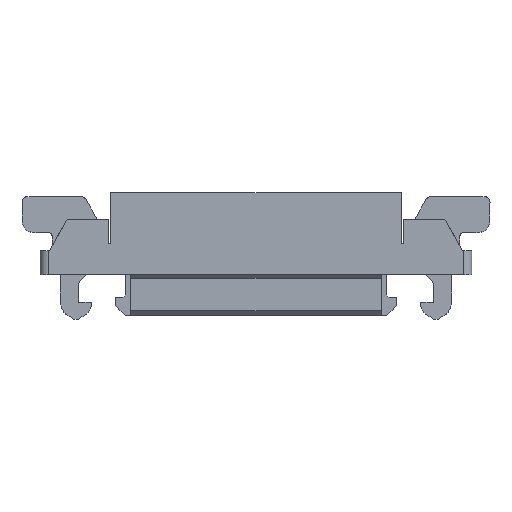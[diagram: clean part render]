
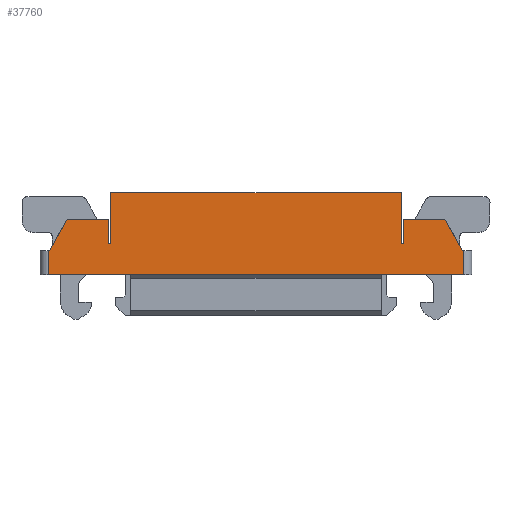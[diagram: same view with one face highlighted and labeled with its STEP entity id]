
A CAD part, top view. The second image highlights one B-rep face of the part: STEP entity #37760.
In plain terms, the highlighted planar face has unit normal (0, 0, 1).
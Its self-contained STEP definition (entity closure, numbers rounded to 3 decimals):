
#860=CARTESIAN_POINT('',(36.331,-13.48,
6.6));
#870=VERTEX_POINT('',#860);
#900=CARTESIAN_POINT('',(36.331,-16.08,6.6));
#910=DIRECTION('',(0.,-1.,0.));
#920=VECTOR('',#910,1.);
#930=LINE('',#900,#920);
#940=CARTESIAN_POINT('',(36.331,-17.68,
6.6));
#950=VERTEX_POINT('',#940);
#960=EDGE_CURVE('',#870,#950,#930,.T.);
#1380=CARTESIAN_POINT('',(31.231,-18.28,6.6))
;
#1390=VERTEX_POINT('',#1380);
#1420=CARTESIAN_POINT('',(0.,-18.28,6.6));
#1430=DIRECTION('',(1.,0.,0.));
#1440=VECTOR('',#1430,1.);
#1450=LINE('',#1420,#1440);
#1460=CARTESIAN_POINT('',(31.131,-18.28,6.6))
;
#1470=VERTEX_POINT('',#1460);
#1480=EDGE_CURVE('',#1470,#1390,#1450,.T.);
#2610=CARTESIAN_POINT('',(31.131,-20.28,6.6))
;
#2620=VERTEX_POINT('',#2610);
#2720=CARTESIAN_POINT('',(31.131,0.,6.6));
#2730=DIRECTION('',(0.,1.,0.));
#2740=VECTOR('',#2730,1.);
#2750=LINE('',#2720,#2740);
#2760=EDGE_CURVE('',#2620,#1470,#2750,.T.);
#17230=CARTESIAN_POINT('',(36.131,-15.68,
6.6));
#17240=VERTEX_POINT('',#17230);
#17270=CARTESIAN_POINT('',(0.,-15.68,6.6));
#17280=DIRECTION('',(1.,0.,0.));
#17290=VECTOR('',#17280,1.);
#17300=LINE('',#17270,#17290);
#17310=CARTESIAN_POINT('',(32.681,-15.68,
6.6));
#17320=VERTEX_POINT('',#17310);
#17330=EDGE_CURVE('',#17320,#17240,#17300,.T.);
#17770=CARTESIAN_POINT('',(36.131,-17.68,
6.6));
#17780=VERTEX_POINT('',#17770);
#17830=CARTESIAN_POINT('',(36.131,0.,6.6));
#17840=DIRECTION('',(0.,-1.,0.));
#17850=VECTOR('',#17840,1.);
#17860=LINE('',#17830,#17850);
#17870=EDGE_CURVE('',#17240,#17780,#17860,.T.);
#25370=CARTESIAN_POINT('',(41.425,0.,6.6));
#25380=DIRECTION('',(0.487,0.873,0.));
#25390=VECTOR('',#25380,1.);
#25400=LINE('',#25370,#25390);
#25410=EDGE_CURVE('',#1390,#17320,#25400,.T.);
#26970=CARTESIAN_POINT('',(60.711,-17.68,
6.6));
#26980=VERTEX_POINT('',#26970);
#27010=CARTESIAN_POINT('',(24.13,-17.68,
6.6));
#27020=DIRECTION('',(1.,0.,0.));
#27030=VECTOR('',#27020,1.);
#27040=LINE('',#27010,#27030);
#27050=CARTESIAN_POINT('',(60.511,-17.68,
6.6));
#27060=VERTEX_POINT('',#27050);
#27070=EDGE_CURVE('',#27060,#26980,#27040,.T.);
#27370=CARTESIAN_POINT('',(65.611,-18.28,6.6)
);
#27380=VERTEX_POINT('',#27370);
#27410=CARTESIAN_POINT('',(55.416,0.,6.6));
#27420=DIRECTION('',(0.487,-0.873,0.));
#27430=VECTOR('',#27420,1.);
#27440=LINE('',#27410,#27430);
#27450=CARTESIAN_POINT('',(64.161,-15.68,
6.6));
#27460=VERTEX_POINT('',#27450);
#27470=EDGE_CURVE('',#27460,#27380,#27440,.T.);
#28100=CARTESIAN_POINT('',(65.711,-18.28,6.6)
);
#28110=VERTEX_POINT('',#28100);
#28140=CARTESIAN_POINT('',(0.,-18.28,6.6));
#28150=DIRECTION('',(1.,0.,0.));
#28160=VECTOR('',#28150,1.);
#28170=LINE('',#28140,#28160);
#28180=EDGE_CURVE('',#27380,#28110,#28170,.T.);
#28520=CARTESIAN_POINT('',(60.511,-14.951,
6.6));
#28530=DIRECTION('',(0.,1.,0.));
#28540=VECTOR('',#28530,1.);
#28550=LINE('',#28520,#28540);
#28560=CARTESIAN_POINT('',(60.511,-13.48,
6.6));
#28570=VERTEX_POINT('',#28560);
#28580=EDGE_CURVE('',#27060,#28570,#28550,.T.);
#29150=CARTESIAN_POINT('',(65.711,-20.28,6.6)
);
#29160=VERTEX_POINT('',#29150);
#29190=CARTESIAN_POINT('',(65.711,0.,6.6));
#29200=DIRECTION('',(0.,-1.,0.));
#29210=VECTOR('',#29200,1.);
#29220=LINE('',#29190,#29210);
#29230=EDGE_CURVE('',#28110,#29160,#29220,.T.);
#29790=CARTESIAN_POINT('',(0.,-15.68,6.6));
#29800=DIRECTION('',(1.,0.,0.));
#29810=VECTOR('',#29800,1.);
#29820=LINE('',#29790,#29810);
#29830=CARTESIAN_POINT('',(60.711,-15.68,
6.6));
#29840=VERTEX_POINT('',#29830);
#29850=EDGE_CURVE('',#29840,#27460,#29820,.T.);
#30130=CARTESIAN_POINT('',(60.711,0.,6.6));
#30140=DIRECTION('',(0.,1.,0.));
#30150=VECTOR('',#30140,1.);
#30160=LINE('',#30130,#30150);
#30170=EDGE_CURVE('',#26980,#29840,#30160,.T.);
#37420=CARTESIAN_POINT('',(52.308,-14.951,
6.6));
#37430=DIRECTION('',(0.,0.,1.));
#37440=DIRECTION('',(1.,0.,0.));
#37450=AXIS2_PLACEMENT_3D('',#37420,#37430,#37440);
#37460=PLANE('',#37450);
#37470=CARTESIAN_POINT('',(25.003,-13.48,
6.6));
#37480=DIRECTION('',(1.,0.,0.));
#37490=VECTOR('',#37480,1.);
#37500=LINE('',#37470,#37490);
#37510=EDGE_CURVE('',#870,#28570,#37500,.T.);
#37520=ORIENTED_EDGE('',*,*,#37510,.F.);
#37530=ORIENTED_EDGE('',*,*,#28580,.T.);
#37540=ORIENTED_EDGE('',*,*,#27070,.F.);
#37550=ORIENTED_EDGE('',*,*,#30170,.F.);
#37560=ORIENTED_EDGE('',*,*,#29850,.F.);
#37570=ORIENTED_EDGE('',*,*,#27470,.F.);
#37580=ORIENTED_EDGE('',*,*,#28180,.F.);
#37590=ORIENTED_EDGE('',*,*,#29230,.F.);
#37600=CARTESIAN_POINT('',(19.05,-20.28,6.6));
#37610=DIRECTION('',(1.,0.,0.));
#37620=VECTOR('',#37610,1.);
#37630=LINE('',#37600,#37620);
#37640=EDGE_CURVE('',#2620,#29160,#37630,.T.);
#37650=ORIENTED_EDGE('',*,*,#37640,.T.);
#37660=ORIENTED_EDGE('',*,*,#2760,.F.);
#37670=ORIENTED_EDGE('',*,*,#1480,.F.);
#37680=ORIENTED_EDGE('',*,*,#25410,.F.);
#37690=ORIENTED_EDGE('',*,*,#17330,.F.);
#37700=ORIENTED_EDGE('',*,*,#17870,.F.);
#37710=EDGE_CURVE('',#17780,#950,#27040,.T.);
#37720=ORIENTED_EDGE('',*,*,#37710,.F.);
#37730=ORIENTED_EDGE('',*,*,#960,.T.);
#37740=EDGE_LOOP('',(#37730,#37720,#37700,#37690,#37680,#37670,#37660,
#37650,#37590,#37580,#37570,#37560,#37550,#37540,#37530,#37520));
#37750=FACE_OUTER_BOUND('',#37740,.T.);
#37760=ADVANCED_FACE('',(#37750),#37460,.T.);
